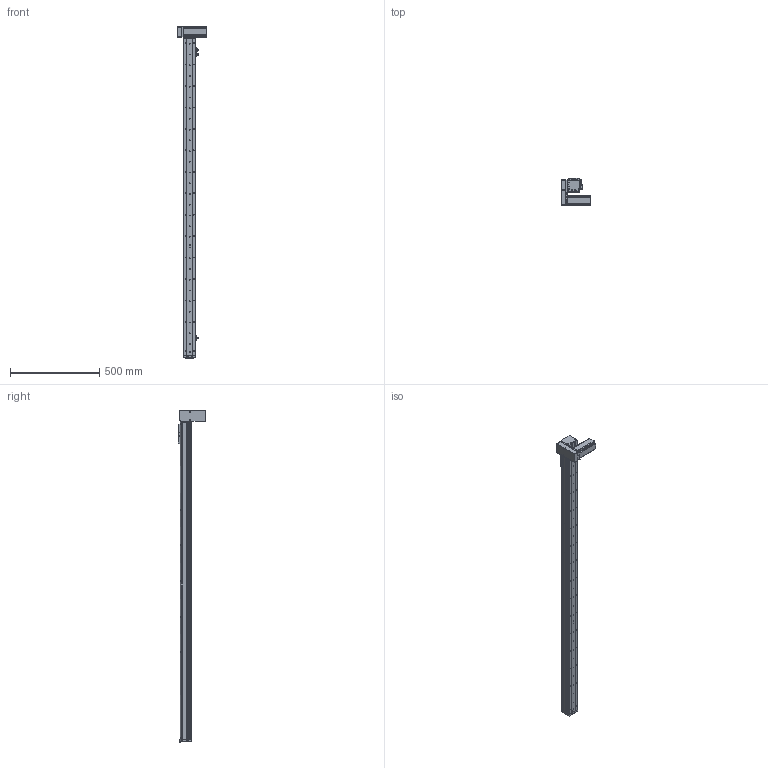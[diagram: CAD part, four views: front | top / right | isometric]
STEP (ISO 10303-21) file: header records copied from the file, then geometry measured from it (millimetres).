
FILE_DESCRIPTION (( 'STEP AP214' ), '1' );
FILE_NAME ('KSD68BS-S1600-MRD-CR.STEP', '2019-08-28T02:49:15', ( '微软用户' ), ( '微软中国' ), 'SwSTEP 2.0', 'SolidWorks 2014', '' );
FILE_SCHEMA (( 'AUTOMOTIVE_DESIGN' ));
Length unit declared in the file: millimetre
Products named in the file (14): 68宽单导轨全封闭丝杆传动安装板1防护罩; KSD68BS 1600行程侧板全封闭; 68宽单导轨全封闭同步带端板; 68单导轨全封闭同步带电机座右; 68单导轨全封闭同步带安装板; 悵誘欶奻狟殏; 68宽马达安装板连板上折同步带; KSD68BS 1600行程盖板全封闭; 感应片68宽全封闭; U倰嫖萇EEㄜSX672; 台达ECMA－C20604AS伺服电机（400W); 68遵裔啣揤啣1; KSD68BS 1600行程底板全封闭; KSD68BS-S1600-MRD-CR
Assembly tree (16 placements, depth 2):
  KSD68BS-S1600-MRD-CR
    KSD68BS 1600行程底板全封闭
    台达ECMA－C20604AS伺服电机（400W)
    U倰嫖萇EEㄜSX672  x3
    感应片68宽全封闭
    68宽马达安装板连板上折同步带
    悵誘欶奻狟殏
    68单导轨全封闭同步带安装板
    68单导轨全封闭同步带电机座右
    68宽单导轨全封闭同步带端板
    KSD68BS 1600行程侧板全封闭  x2
    68宽单导轨全封闭丝杆传动安装板1防护罩
    KSD68BS 1600行程盖板全封闭
    68遵裔啣揤啣1
Bounding box: 167.2 x 155.5 x 1858.1 mm (x, y, z)
Volume: 3343770.3 mm3; surface area: 1351618.1 mm2
Topology: 17 solids, 17 shells, 1589 faces, 4584 edges, 2921 vertices
Faces by surface type: cylinder 781, plane 624, cone 184
Entity records: 52274 total; most frequent: CARTESIAN_POINT 9054, DIRECTION 7789, ORIENTED_EDGE 7450, EDGE_CURVE 3725, AXIS2_PLACEMENT_3D 2838, VERTEX_POINT 2443, LINE 2113, VECTOR 2113
